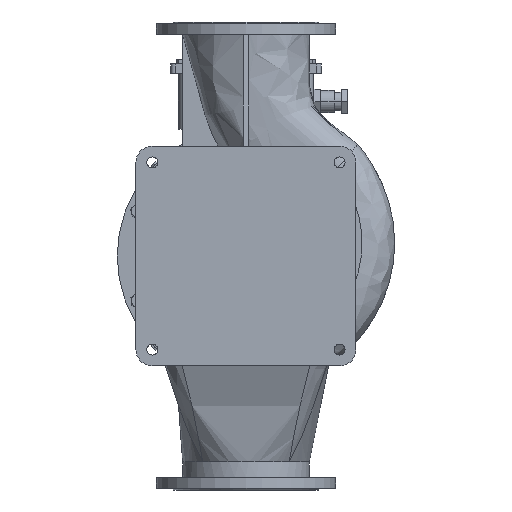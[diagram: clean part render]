
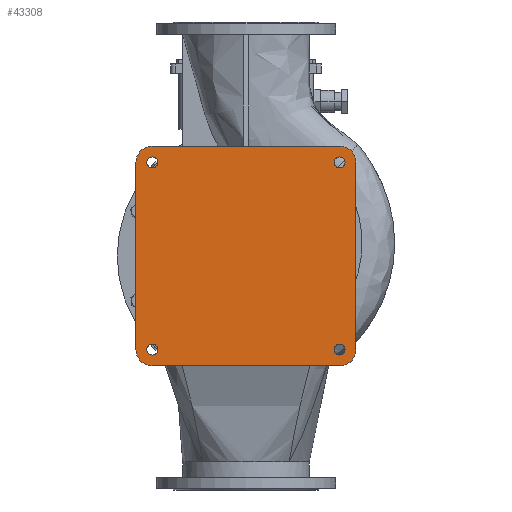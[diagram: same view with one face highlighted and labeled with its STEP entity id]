
A CAD part, front view. The second image highlights one B-rep face of the part: STEP entity #43308.
In plain terms, the highlighted planar face has unit normal (0, -1, 0).
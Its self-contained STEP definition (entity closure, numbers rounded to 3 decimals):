
#426 = DIRECTION ( 'NONE',  ( 0., 0., -1. ) ) ;
#726 = AXIS2_PLACEMENT_3D ( 'NONE', #40791, #16715, #41187 ) ;
#1681 = CIRCLE ( 'NONE', #78380, 42. ) ;
#2052 = CARTESIAN_POINT ( 'NONE',  ( -240., -290., 254. ) ) ;
#3956 = DIRECTION ( 'NONE',  ( 0., 0., -1. ) ) ;
#3966 = CARTESIAN_POINT ( 'NONE',  ( 282., -290., -240. ) ) ;
#4006 = EDGE_LOOP ( 'NONE', ( #53309, #42842 ) ) ;
#4163 = VERTEX_POINT ( 'NONE', #70343 ) ;
#4193 = CIRCLE ( 'NONE', #14408, 42. ) ;
#5062 = CARTESIAN_POINT ( 'NONE',  ( -282., -290., 240. ) ) ;
#6331 = VERTEX_POINT ( 'NONE', #20046 ) ;
#7101 = VERTEX_POINT ( 'NONE', #23857 ) ;
#7615 = DIRECTION ( 'NONE',  ( 0., 1., 0. ) ) ;
#8071 = DIRECTION ( 'NONE',  ( 0., 1., 0. ) ) ;
#8101 = CARTESIAN_POINT ( 'NONE',  ( 282., -290., 240. ) ) ;
#8376 = ORIENTED_EDGE ( 'NONE', *, *, #30156, .F. ) ;
#8853 = CARTESIAN_POINT ( 'NONE',  ( -240., -290., 226. ) ) ;
#9184 = VECTOR ( 'NONE', #77270, 1000. ) ;
#9531 = DIRECTION ( 'NONE',  ( 0., 1., 0. ) ) ;
#10799 = VERTEX_POINT ( 'NONE', #61985 ) ;
#11056 = DIRECTION ( 'NONE',  ( 0., 0., -1. ) ) ;
#11304 = CARTESIAN_POINT ( 'NONE',  ( 240., -290., 226. ) ) ;
#11449 = CARTESIAN_POINT ( 'NONE',  ( -240., -290., -240. ) ) ;
#12363 = VERTEX_POINT ( 'NONE', #2052 ) ;
#12364 = CIRCLE ( 'NONE', #27691, 42. ) ;
#13218 = CIRCLE ( 'NONE', #40134, 14. ) ;
#13541 = EDGE_CURVE ( 'NONE', #10799, #4163, #4193, .T. ) ;
#13582 = VECTOR ( 'NONE', #31561, 1000. ) ;
#14098 = AXIS2_PLACEMENT_3D ( 'NONE', #57770, #16090, #58164 ) ;
#14408 = AXIS2_PLACEMENT_3D ( 'NONE', #11449, #28692, #11056 ) ;
#15059 = ORIENTED_EDGE ( 'NONE', *, *, #25026, .T. ) ;
#15469 = AXIS2_PLACEMENT_3D ( 'NONE', #36255, #48636, #72223 ) ;
#15967 = DIRECTION ( 'NONE',  ( 0., -1., 0. ) ) ;
#16031 = EDGE_CURVE ( 'NONE', #7101, #64743, #1681, .T. ) ;
#16090 = DIRECTION ( 'NONE',  ( 0., 1., 0. ) ) ;
#16257 = ORIENTED_EDGE ( 'NONE', *, *, #25724, .T. ) ;
#16715 = DIRECTION ( 'NONE',  ( 0., 1., 0. ) ) ;
#16795 = DIRECTION ( 'NONE',  ( 0., 0., 1. ) ) ;
#17540 = CARTESIAN_POINT ( 'NONE',  ( 282., -290., -240. ) ) ;
#18097 = ORIENTED_EDGE ( 'NONE', *, *, #77156, .F. ) ;
#18715 = VERTEX_POINT ( 'NONE', #23366 ) ;
#20046 = CARTESIAN_POINT ( 'NONE',  ( -240., -290., 282. ) ) ;
#20107 = EDGE_CURVE ( 'NONE', #66367, #70396, #12364, .T. ) ;
#21768 = CARTESIAN_POINT ( 'NONE',  ( 240., -290., -240. ) ) ;
#21989 = DIRECTION ( 'NONE',  ( 0., 0., -1. ) ) ;
#22125 = CARTESIAN_POINT ( 'NONE',  ( 240., -290., 240. ) ) ;
#22152 = DIRECTION ( 'NONE',  ( 0., 1., 0. ) ) ;
#23305 = DIRECTION ( 'NONE',  ( 0., 1., 0. ) ) ;
#23366 = CARTESIAN_POINT ( 'NONE',  ( -240., -290., -254. ) ) ;
#23857 = CARTESIAN_POINT ( 'NONE',  ( 240., -290., 282. ) ) ;
#25026 = EDGE_CURVE ( 'NONE', #78903, #59685, #45519, .T. ) ;
#25496 = VERTEX_POINT ( 'NONE', #8853 ) ;
#25587 = VECTOR ( 'NONE', #21989, 1000. ) ;
#25677 = DIRECTION ( 'NONE',  ( 0., 0., 1. ) ) ;
#25724 = EDGE_CURVE ( 'NONE', #76063, #49632, #25833, .T. ) ;
#25833 = CIRCLE ( 'NONE', #61616, 14. ) ;
#27333 = ORIENTED_EDGE ( 'NONE', *, *, #16031, .F. ) ;
#27379 = CARTESIAN_POINT ( 'NONE',  ( -240., -290., -240. ) ) ;
#27691 = AXIS2_PLACEMENT_3D ( 'NONE', #64420, #46814, #3956 ) ;
#27889 = EDGE_CURVE ( 'NONE', #12363, #25496, #74219, .T. ) ;
#28003 = FACE_BOUND ( 'NONE', #4006, .T. ) ;
#28197 = DIRECTION ( 'NONE',  ( 0., 1., 0. ) ) ;
#28444 = EDGE_CURVE ( 'NONE', #18715, #63895, #50043, .T. ) ;
#28553 = CIRCLE ( 'NONE', #54177, 14. ) ;
#28692 = DIRECTION ( 'NONE',  ( 0., 1., 0. ) ) ;
#30156 = EDGE_CURVE ( 'NONE', #70396, #10799, #70482, .T. ) ;
#31561 = DIRECTION ( 'NONE',  ( 0., 0., 1. ) ) ;
#32240 = EDGE_LOOP ( 'NONE', ( #58306, #38060, #27333, #18097, #51348, #32404, #57422, #8376 ) ) ;
#32404 = ORIENTED_EDGE ( 'NONE', *, *, #57582, .F. ) ;
#33688 = DIRECTION ( 'NONE',  ( 0., 1., 0. ) ) ;
#34478 = CARTESIAN_POINT ( 'NONE',  ( 240., -290., -240. ) ) ;
#35381 = DIRECTION ( 'NONE',  ( 1., 0., 0. ) ) ;
#35539 = CIRCLE ( 'NONE', #45459, 42. ) ;
#36255 = CARTESIAN_POINT ( 'NONE',  ( -240., -290., -240. ) ) ;
#37196 = CARTESIAN_POINT ( 'NONE',  ( -282., -290., -240. ) ) ;
#37758 = CARTESIAN_POINT ( 'NONE',  ( 240., -290., -282. ) ) ;
#37909 = VECTOR ( 'NONE', #35381, 1000. ) ;
#38060 = ORIENTED_EDGE ( 'NONE', *, *, #61745, .F. ) ;
#40134 = AXIS2_PLACEMENT_3D ( 'NONE', #62511, #8071, #25677 ) ;
#40791 = CARTESIAN_POINT ( 'NONE',  ( 240., -290., 240. ) ) ;
#41187 = DIRECTION ( 'NONE',  ( 0., 0., 1. ) ) ;
#42795 = LINE ( 'NONE', #37196, #13582 ) ;
#42842 = ORIENTED_EDGE ( 'NONE', *, *, #27889, .T. ) ;
#42911 = CARTESIAN_POINT ( 'NONE',  ( -240., -290., -226. ) ) ;
#43308 = ADVANCED_FACE ( 'NONE', ( #70813, #47217, #52848, #28003, #77978 ), #46834, .T. ) ;
#44259 = ORIENTED_EDGE ( 'NONE', *, *, #70118, .T. ) ;
#45459 = AXIS2_PLACEMENT_3D ( 'NONE', #50078, #7615, #426 ) ;
#45487 = ORIENTED_EDGE ( 'NONE', *, *, #53622, .T. ) ;
#45519 = CIRCLE ( 'NONE', #726, 14. ) ;
#46371 = CARTESIAN_POINT ( 'NONE',  ( 240., -290., 240. ) ) ;
#46451 = CARTESIAN_POINT ( 'NONE',  ( 240., -290., -240. ) ) ;
#46814 = DIRECTION ( 'NONE',  ( 0., 1., 0. ) ) ;
#46834 = PLANE ( 'NONE',  #61431 ) ;
#47217 = FACE_BOUND ( 'NONE', #52634, .T. ) ;
#47222 = LINE ( 'NONE', #17540, #25587 ) ;
#48636 = DIRECTION ( 'NONE',  ( 0., 1., 0. ) ) ;
#49632 = VERTEX_POINT ( 'NONE', #78095 ) ;
#50043 = CIRCLE ( 'NONE', #15469, 14. ) ;
#50078 = CARTESIAN_POINT ( 'NONE',  ( -240., -290., 240. ) ) ;
#51348 = ORIENTED_EDGE ( 'NONE', *, *, #56142, .F. ) ;
#52600 = LINE ( 'NONE', #64984, #37909 ) ;
#52634 = EDGE_LOOP ( 'NONE', ( #15059, #78154 ) ) ;
#52848 = FACE_BOUND ( 'NONE', #66217, .T. ) ;
#53309 = ORIENTED_EDGE ( 'NONE', *, *, #68143, .T. ) ;
#53622 = EDGE_CURVE ( 'NONE', #49632, #76063, #77648, .T. ) ;
#53623 = DIRECTION ( 'NONE',  ( 0., 0., -1. ) ) ;
#54177 = AXIS2_PLACEMENT_3D ( 'NONE', #27379, #22152, #70976 ) ;
#56142 = EDGE_CURVE ( 'NONE', #61990, #6331, #35539, .T. ) ;
#57002 = ORIENTED_EDGE ( 'NONE', *, *, #28444, .T. ) ;
#57422 = ORIENTED_EDGE ( 'NONE', *, *, #13541, .F. ) ;
#57582 = EDGE_CURVE ( 'NONE', #4163, #61990, #42795, .T. ) ;
#57770 = CARTESIAN_POINT ( 'NONE',  ( -240., -290., 240. ) ) ;
#58164 = DIRECTION ( 'NONE',  ( 0., 0., 1. ) ) ;
#58306 = ORIENTED_EDGE ( 'NONE', *, *, #20107, .F. ) ;
#59685 = VERTEX_POINT ( 'NONE', #63906 ) ;
#61431 = AXIS2_PLACEMENT_3D ( 'NONE', #46451, #15967, #53623 ) ;
#61616 = AXIS2_PLACEMENT_3D ( 'NONE', #34478, #33688, #16795 ) ;
#61745 = EDGE_CURVE ( 'NONE', #64743, #66367, #47222, .T. ) ;
#61985 = CARTESIAN_POINT ( 'NONE',  ( -240., -290., -282. ) ) ;
#61990 = VERTEX_POINT ( 'NONE', #5062 ) ;
#62511 = CARTESIAN_POINT ( 'NONE',  ( -240., -290., 240. ) ) ;
#63702 = CARTESIAN_POINT ( 'NONE',  ( -240., -290., -282. ) ) ;
#63895 = VERTEX_POINT ( 'NONE', #42911 ) ;
#63906 = CARTESIAN_POINT ( 'NONE',  ( 240., -290., 254. ) ) ;
#64420 = CARTESIAN_POINT ( 'NONE',  ( 240., -290., -240. ) ) ;
#64743 = VERTEX_POINT ( 'NONE', #8101 ) ;
#64984 = CARTESIAN_POINT ( 'NONE',  ( 240., -290., 282. ) ) ;
#66217 = EDGE_LOOP ( 'NONE', ( #16257, #45487 ) ) ;
#66367 = VERTEX_POINT ( 'NONE', #3966 ) ;
#68143 = EDGE_CURVE ( 'NONE', #25496, #12363, #13218, .T. ) ;
#69698 = AXIS2_PLACEMENT_3D ( 'NONE', #22125, #23305, #77737 ) ;
#70118 = EDGE_CURVE ( 'NONE', #63895, #18715, #28553, .T. ) ;
#70343 = CARTESIAN_POINT ( 'NONE',  ( -282., -290., -240. ) ) ;
#70396 = VERTEX_POINT ( 'NONE', #37758 ) ;
#70482 = LINE ( 'NONE', #63702, #9184 ) ;
#70813 = FACE_BOUND ( 'NONE', #76007, .T. ) ;
#70976 = DIRECTION ( 'NONE',  ( 0., 0., 1. ) ) ;
#71255 = AXIS2_PLACEMENT_3D ( 'NONE', #21768, #28197, #77010 ) ;
#72223 = DIRECTION ( 'NONE',  ( 0., 0., 1. ) ) ;
#72253 = CIRCLE ( 'NONE', #69698, 14. ) ;
#74219 = CIRCLE ( 'NONE', #14098, 14. ) ;
#76007 = EDGE_LOOP ( 'NONE', ( #57002, #44259 ) ) ;
#76063 = VERTEX_POINT ( 'NONE', #76560 ) ;
#76142 = EDGE_CURVE ( 'NONE', #59685, #78903, #72253, .T. ) ;
#76350 = DIRECTION ( 'NONE',  ( 0., 0., -1. ) ) ;
#76560 = CARTESIAN_POINT ( 'NONE',  ( 240., -290., -254. ) ) ;
#77010 = DIRECTION ( 'NONE',  ( 0., 0., 1. ) ) ;
#77156 = EDGE_CURVE ( 'NONE', #6331, #7101, #52600, .T. ) ;
#77270 = DIRECTION ( 'NONE',  ( -1., 0., 0. ) ) ;
#77648 = CIRCLE ( 'NONE', #71255, 14. ) ;
#77737 = DIRECTION ( 'NONE',  ( 0., 0., 1. ) ) ;
#77978 = FACE_OUTER_BOUND ( 'NONE', #32240, .T. ) ;
#78095 = CARTESIAN_POINT ( 'NONE',  ( 240., -290., -226. ) ) ;
#78154 = ORIENTED_EDGE ( 'NONE', *, *, #76142, .T. ) ;
#78380 = AXIS2_PLACEMENT_3D ( 'NONE', #46371, #9531, #76350 ) ;
#78903 = VERTEX_POINT ( 'NONE', #11304 ) ;
